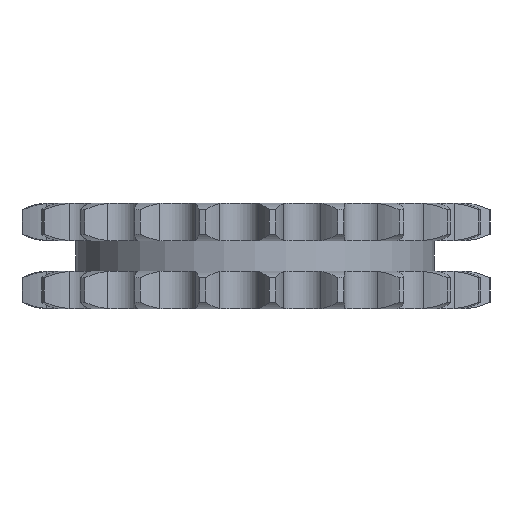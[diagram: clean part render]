
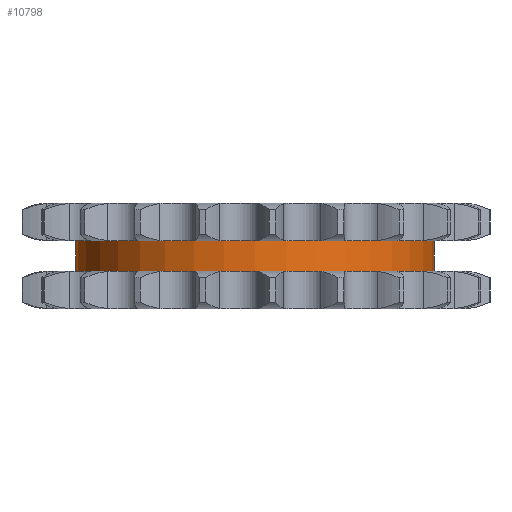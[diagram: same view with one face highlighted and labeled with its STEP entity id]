
A CAD part, left-side view. The second image highlights one B-rep face of the part: STEP entity #10798.
In plain terms, the highlighted cylindrical face has radius 43.257 mm (diameter 86.513 mm), a partial arc.
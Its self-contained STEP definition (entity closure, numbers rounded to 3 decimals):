
#2428=DIRECTION('',(0.,0.,-1.));
#2429=VECTOR('',#2428,7.3);
#2430=CARTESIAN_POINT('',(0.,43.257,3.65));
#2431=LINE('',#2430,#2429);
#2435=CARTESIAN_POINT('',(0.,0.,3.65));
#2436=DIRECTION('',(0.,0.,1.));
#2437=DIRECTION('',(0.,1.,0.));
#2438=AXIS2_PLACEMENT_3D('',#2435,#2436,#2437);
#2443=DIRECTION('',(0.,0.,-1.));
#2444=VECTOR('',#2443,7.3);
#2445=CARTESIAN_POINT('',(0.,-43.257,3.65));
#2446=LINE('',#2445,#2444);
#2450=CARTESIAN_POINT('',(0.,0.,-3.65));
#2451=DIRECTION('',(0.,0.,1.));
#2452=DIRECTION('',(0.,1.,0.));
#2453=AXIS2_PLACEMENT_3D('',#2450,#2451,#2452);
#7619=CARTESIAN_POINT('',(0.,43.257,3.65));
#7620=CARTESIAN_POINT('',(0.,43.257,-3.65));
#7621=VERTEX_POINT('',#7619);
#7622=VERTEX_POINT('',#7620);
#7623=CARTESIAN_POINT('',(0.,-43.257,3.65));
#7624=CARTESIAN_POINT('',(0.,-43.257,-3.65));
#7625=VERTEX_POINT('',#7623);
#7626=VERTEX_POINT('',#7624);
#10786=CARTESIAN_POINT('',(0.,0.,4.015));
#10787=DIRECTION('',(0.,0.,-1.));
#10788=DIRECTION('',(0.,-1.,0.));
#10789=AXIS2_PLACEMENT_3D('',#10786,#10787,#10788);
#10790=CYLINDRICAL_SURFACE('',#10789,43.257);
#10791=ORIENTED_EDGE('',*,*,#10776,.F.);
#10792=ORIENTED_EDGE('',*,*,#10766,.T.);
#10793=ORIENTED_EDGE('',*,*,#10780,.T.);
#10795=ORIENTED_EDGE('',*,*,#10794,.F.);
#10796=EDGE_LOOP('',(#10791,#10792,#10793,#10795));
#10797=FACE_OUTER_BOUND('',#10796,.F.);
#10798=ADVANCED_FACE('',(#10797),#10790,.T.);
#2439=CIRCLE('',#2438,43.257);
#2454=CIRCLE('',#2453,43.257);
#10766=EDGE_CURVE('',#7621,#7625,#2439,.T.);
#10776=EDGE_CURVE('',#7621,#7622,#2431,.T.);
#10780=EDGE_CURVE('',#7625,#7626,#2446,.T.);
#10794=EDGE_CURVE('',#7622,#7626,#2454,.T.);
